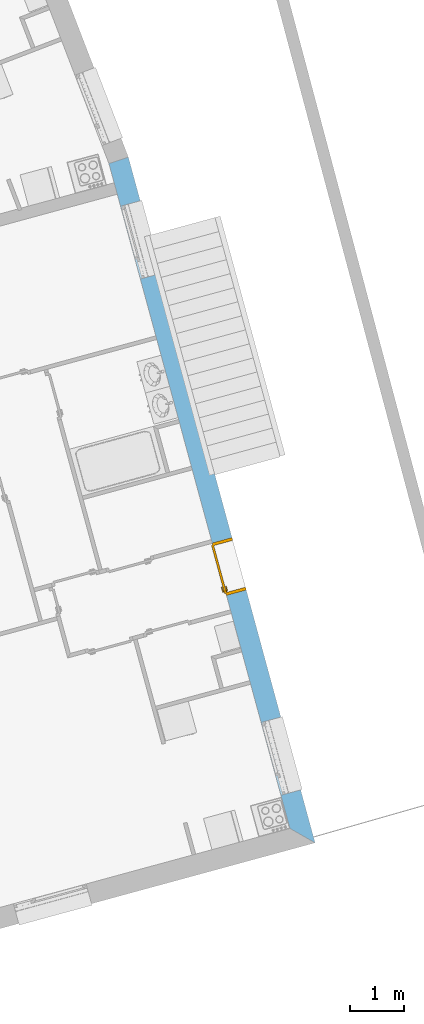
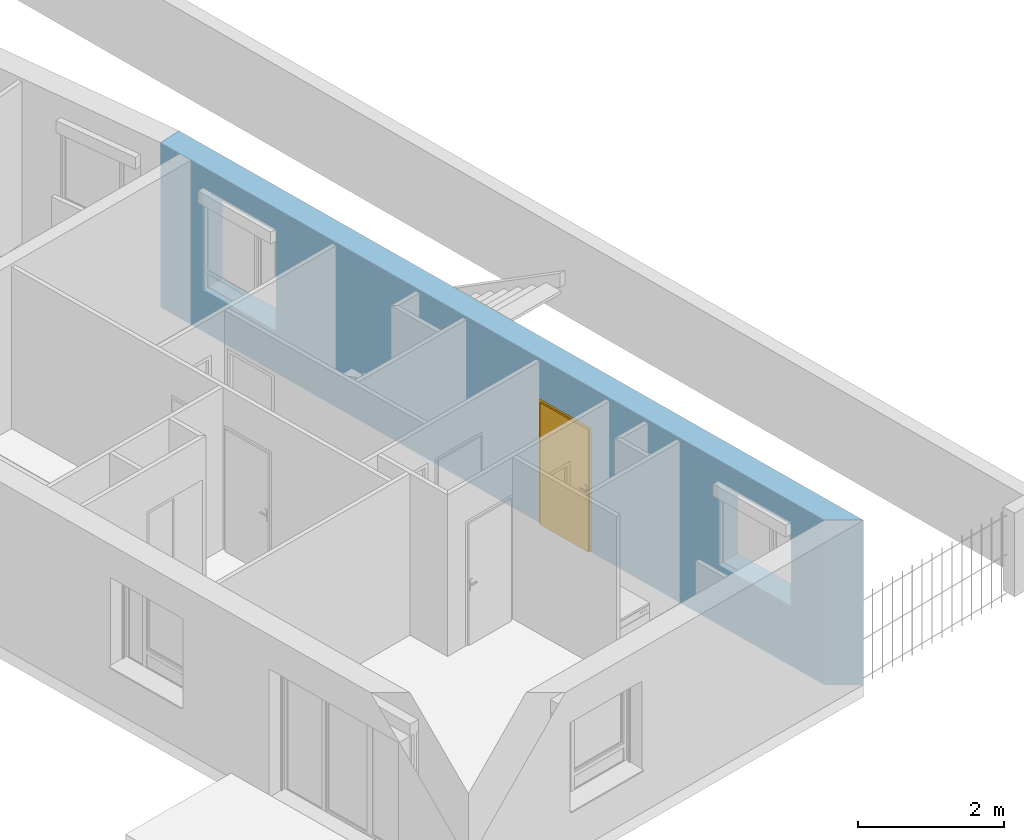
# One storey, part 83 of 195: 1 door, 3 openings, plus 1 element that does not belong to this part.
"""IFC2X3 building model written with IfcOpenShell, lengths in metres."""

from ifc_helpers import new_model, entity, si_unit, converted_unit, derived_unit, money_unit, direction, frame, origin_with_axes, origin_2d_with_axis, place, context, subcontext, project, spatial, polyline, rectangle, outline, extrude, faceted_brep, source, transform, mapped, material, layer, layer_set, layer_usage, type_object, element, fill, save


model = new_model("IFC2X3")

# Units and contexts
model_context = context("Model", 3, precision=1e-05, world=origin_with_axes(), true_north=direction((0.0, 1.0)))
body_context = subcontext(model_context, "Body", "Model", "MODEL_VIEW")
ifc_project = project(units=[si_unit("LENGTHUNIT", "METRE"), si_unit("AREAUNIT", "SQUARE_METRE"), si_unit("VOLUMEUNIT", "CUBIC_METRE"), converted_unit("PLANEANGLEUNIT", "DEGREE", entity("IfcPlaneAngleMeasure", 0.0174532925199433), si_unit("PLANEANGLEUNIT", "RADIAN"), dimensions=[0, 0, 0, 0, 0, 0, 0]), money_unit("CHF"), converted_unit("TIMEUNIT", "Year", entity("IfcTimeMeasure", 31557600.0), si_unit("TIMEUNIT", "SECOND"), dimensions=[0, 0, 1, 0, 0, 0, 0]), si_unit("MASSUNIT", "GRAM", prefix="KILO"), si_unit("THERMODYNAMICTEMPERATUREUNIT", "DEGREE_CELSIUS"), si_unit("LUMINOUSINTENSITYUNIT", "LUMEN"), si_unit("ENERGYUNIT", "JOULE", prefix="MEGA"), derived_unit("THERMALCONDUCTANCEUNIT", [(si_unit("POWERUNIT", "WATT"), 1), (si_unit("LENGTHUNIT", "METRE"), -1), (si_unit("THERMODYNAMICTEMPERATUREUNIT", "KELVIN"), -1)]), derived_unit("SPECIFICHEATCAPACITYUNIT", [(si_unit("ENERGYUNIT", "JOULE"), 1), (si_unit("MASSUNIT", "GRAM", prefix="KILO"), -1), (si_unit("THERMODYNAMICTEMPERATUREUNIT", "KELVIN"), -1)]), derived_unit("MASSDENSITYUNIT", [(si_unit("MASSUNIT", "GRAM", prefix="KILO"), 1), (si_unit("VOLUMEUNIT", "CUBIC_METRE"), -1)])], contexts=[model_context])

# Site, building, storey
site_placement = place(None, origin_with_axes())
site = spatial("IfcSite", under=ifc_project, at=site_placement, Name="Site", CompositionType="ELEMENT")
building_placement = place(site_placement, origin_with_axes())
building = spatial("IfcBuilding", under=site, at=building_placement, Name="Bâtiment", CompositionType="ELEMENT")
storey_placement = place(building_placement, origin_with_axes())
storey = spatial("IfcBuildingStorey", under=building, at=storey_placement, Name="rdc", CompositionType="ELEMENT", Elevation=0.0)

# Wall, openings, door
ifc_material_1 = material(Name="Parpaing 312445824")
ifc_layer_1 = layer(ifc_material_1, 0.22, ventilated="UNKNOWN")
ifc_material_2 = material(Name="Isolant styromousse 301821074")
ifc_layer_2 = layer(ifc_material_2, 0.16, ventilated="UNKNOWN")
ifc_layer_set = layer_set([ifc_layer_1, ifc_layer_2], Name="isol int 22+16 0836643197")
ifc_layer_usage = layer_usage(ifc_layer_set, "AXIS2", "NEGATIVE", 0.0)
wall_type = type_object("IfcWallType", Name="isol int 22+16 0836643197 380", PredefinedType="NOTDEFINED")
wall_placement = place(storey_placement, frame((9593.67620369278, -1044.690928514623, 57.7), z_axis=(0.0, 0.0, 1.0), x_axis=(0.2627340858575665, -0.9648682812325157, 0.0)))
wall = element("IfcWallStandardCase", 1, at=wall_placement, inside=storey, type_object=wall_type, material=ifc_layer_usage, Name="Mur-113", context=body_context, shape_type="SweptSolid", body=[
    extrude(outline(polyline([(0.01930253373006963, -0.3799999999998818), (12.8068754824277, -0.3799999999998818), (13.18687548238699, 0.0), (0.0, 0.0), (0.01930253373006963, -0.3799999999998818)])), origin_with_axes(), (0.0, 0.0, 1.0), 2.75),
])
opening_1_placement = place(wall_placement, frame((1.540061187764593, 0.0, 0.7000000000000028), z_axis=(0.0, 0.0, 1.0), x_axis=(1.0, 0.0, 0.0)))
element("IfcOpeningElement", 2, at=opening_1_placement, cuts=wall, Name="Fen-045", context=body_context, shape_type="Brep", body=[
    faceted_brep([(-0.7000000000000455, -0.220000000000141, 1.5), (0.6999999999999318, -0.2200000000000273, 1.5), (0.6999999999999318, 3.343922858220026, 1.5), (-0.7000000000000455, 3.343922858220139, 1.5), (-0.7000000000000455, -0.220000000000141, 1.700000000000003), (0.6999999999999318, -0.2200000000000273, 1.700000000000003), (0.6999999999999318, -0.2999999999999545, 1.5), (0.6999999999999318, -0.2999999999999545, 0.0), (0.6999999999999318, 3.343922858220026, 0.0), (-0.7000000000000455, 3.343922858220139, 0.0), (-0.7000000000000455, -0.3000000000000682, 1.5), (-0.7000000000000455, -0.3000000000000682, 0.0), (-0.7000000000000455, -0.4799999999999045, 1.5), (-0.7000000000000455, -0.4799999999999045, 1.700000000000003), (0.6999999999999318, -0.4800000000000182, 1.700000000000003), (0.6999999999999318, -0.4800000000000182, 1.5), (0.6999999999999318, -3.72392285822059, 1.5), (0.6999999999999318, -3.72392285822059, 0.0), (-0.7000000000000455, -3.723922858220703, 0.0), (-0.7000000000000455, -3.723922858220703, 1.5)], [[[0, 1, 2, 3]], [[1, 0, 4, 5]], [[1, 6, 7, 8, 2]], [[2, 8, 9, 3]], [[10, 0, 3, 9, 11]], [[0, 10, 12, 13, 4]], [[14, 5, 4, 13]], [[6, 1, 5, 14, 15]], [[6, 15, 16, 17, 7]], [[7, 11, 9, 8]], [[12, 10, 11, 18, 19]], [[12, 15, 14, 13]], [[15, 12, 19, 16]], [[19, 18, 17, 16]], [[11, 7, 17, 18]]]),
])
opening_2_placement = place(wall_placement, frame((11.46788983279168, 0.0, 1.0), z_axis=(0.0, 0.0, 1.0), x_axis=(1.0, 0.0, 0.0)))
element("IfcOpeningElement", 3, at=opening_2_placement, cuts=wall, Name="Fen-045", context=body_context, shape_type="Brep", body=[
    faceted_brep([(-0.6999999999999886, -0.220000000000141, 1.200000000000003), (0.6999999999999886, -0.220000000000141, 1.200000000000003), (0.6999999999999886, 3.343922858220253, 1.200000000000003), (-0.7000000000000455, 3.343922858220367, 1.200000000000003), (-0.6999999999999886, -0.220000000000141, 1.399999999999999), (0.6999999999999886, -0.220000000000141, 1.399999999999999), (0.6999999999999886, -0.3000000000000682, 1.200000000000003), (0.6999999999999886, -0.3000000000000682, 0.0), (0.6999999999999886, 3.343922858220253, 0.0), (-0.7000000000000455, 3.343922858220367, 0.0), (-0.6999999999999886, -0.3000000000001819, 1.200000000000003), (-0.6999999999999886, -0.3000000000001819, 0.0), (-0.6999999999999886, -0.4800000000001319, 1.200000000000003), (-0.6999999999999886, -0.4800000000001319, 1.399999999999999), (0.6999999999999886, -0.4800000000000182, 1.399999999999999), (0.6999999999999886, -0.4800000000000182, 1.200000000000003), (0.7000000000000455, -3.723922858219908, 1.200000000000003), (0.7000000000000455, -3.723922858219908, 0.0), (-0.6999999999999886, -3.723922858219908, 0.0), (-0.6999999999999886, -3.723922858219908, 1.200000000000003)], [[[0, 1, 2, 3]], [[1, 0, 4, 5]], [[1, 6, 7, 8, 2]], [[2, 8, 9, 3]], [[10, 0, 3, 9, 11]], [[0, 10, 12, 13, 4]], [[14, 5, 4, 13]], [[6, 1, 5, 14, 15]], [[6, 15, 16, 17, 7]], [[7, 11, 9, 8]], [[12, 10, 11, 18, 19]], [[12, 15, 14, 13]], [[15, 12, 19, 16]], [[19, 18, 17, 16]], [[11, 7, 17, 18]]]),
])
opening_3_placement = place(wall_placement, frame((7.820826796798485, 0.0, 0.0), z_axis=(0.0, 0.0, 1.0), x_axis=(1.0, 0.0, 0.0)))
opening_3 = element("IfcOpeningElement", 4, at=opening_3_placement, cuts=wall, Name="Por-290", context=body_context, shape_type="SweptSolid", body=[
    extrude(rectangle(XDim=1.01000001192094, YDim=2.079999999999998, at=origin_2d_with_axis()), frame((-5.960487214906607e-09, 0.3799999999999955, 1.039999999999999), z_axis=(0.0, -1.0, 0.0), x_axis=(-1.0, 0.0, 0.0)), (0.0, 0.0, 1.0), 0.76),
])
door_style = type_object("IfcDoorStyle", Name="Porte_1v", ConstructionType="NOTDEFINED", OperationType="NOTDEFINED", ParameterTakesPrecedence=False, Sizeable=False)
shared_shape = source(origin_with_axes(), body_context, "Body", "Brep", [
    faceted_brep([(0.5049999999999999, 0.0, 0.0), (0.465, 0.0, 0.0), (0.4649999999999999, 0.0, 2.04), (-0.4649999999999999, 0.0, 2.04), (-0.465, 0.0, 0.0), (-0.5049999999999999, 0.0, 0.0), (-0.5049999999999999, 0.0, 2.08), (0.5049999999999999, 0.0, 2.08), (0.5049999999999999, -0.38, 0.0), (0.45, -0.3799999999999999, 0.0), (0.45, -0.01500000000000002, 0.0), (0.465, -0.01500000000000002, 0.0), (0.4649999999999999, -0.01500000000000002, 2.04), (-0.4649999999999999, -0.01499999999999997, 2.04), (-0.465, -0.01499999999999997, 0.0), (-0.45, -0.01499999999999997, 0.0), (-0.45, -0.3799999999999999, 0.0), (-0.5049999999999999, -0.3799999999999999, 0.0), (-0.5049999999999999, -0.3799999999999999, 2.08), (0.5049999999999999, -0.38, 2.08), (-0.45, -0.3799999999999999, 2.025), (0.45, -0.3799999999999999, 2.025), (0.45, -0.01500000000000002, 2.025), (-0.45, -0.01499999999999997, 2.025)], [[[0, 1, 2, 3, 4, 5, 6, 7]], [[0, 8, 9, 10, 11, 1]], [[1, 11, 12, 2]], [[2, 12, 13, 3]], [[3, 13, 14, 4]], [[5, 4, 14, 15, 16, 17]], [[18, 6, 5, 17]], [[19, 7, 6, 18]], [[8, 0, 7, 19]], [[9, 8, 19, 18, 17, 16, 20, 21]], [[10, 9, 21, 22]], [[11, 10, 22, 23, 15, 14, 13, 12]], [[23, 20, 16, 15]], [[22, 21, 20, 23]]]),
    faceted_brep([(-0.4, -0.01499999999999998, 0.9), (-0.4399999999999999, -0.01499999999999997, 0.9), (-0.4399999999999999, -0.01499999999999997, 1.1), (-0.4, -0.01499999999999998, 1.1), (-0.4, -0.02499999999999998, 0.9), (-0.4399999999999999, -0.02499999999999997, 0.9), (-0.4399999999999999, -0.02499999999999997, 1.1), (-0.4, -0.02499999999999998, 1.1)], [[[0, 1, 2, 3]], [[1, 0, 4, 5]], [[2, 1, 5, 6]], [[3, 2, 6, 7]], [[0, 3, 7, 4]], [[5, 4, 7, 6]]]),
    faceted_brep([(-0.3299999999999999, -0.02499999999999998, 1.0), (-0.4299999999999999, -0.02499999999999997, 1.0), (-0.4299999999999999, -0.02499999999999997, 1.02), (-0.3299999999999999, -0.02499999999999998, 1.02), (-0.3299999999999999, -0.04499999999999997, 1.0), (-0.4299999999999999, -0.04499999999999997, 1.0), (-0.4299999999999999, -0.04499999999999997, 1.02), (-0.3299999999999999, -0.04499999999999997, 1.02)], [[[0, 1, 2, 3]], [[1, 0, 4, 5]], [[2, 1, 5, 6]], [[3, 2, 6, 7]], [[0, 3, 7, 4]], [[5, 4, 7, 6]]]),
    faceted_brep([(-0.4, 0.03500000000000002, 0.9), (-0.4399999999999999, 0.03500000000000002, 0.9), (-0.4399999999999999, 0.03500000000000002, 1.1), (-0.4, 0.03500000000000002, 1.1), (-0.4, 0.02500000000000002, 0.9), (-0.4399999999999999, 0.02500000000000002, 0.9), (-0.4399999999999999, 0.02500000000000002, 1.1), (-0.4, 0.02500000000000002, 1.1)], [[[0, 1, 2, 3]], [[1, 0, 4, 5]], [[2, 1, 5, 6]], [[3, 2, 6, 7]], [[0, 3, 7, 4]], [[5, 4, 7, 6]]]),
    faceted_brep([(-0.3299999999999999, 0.05500000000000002, 1.0), (-0.4299999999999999, 0.05500000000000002, 1.0), (-0.4299999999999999, 0.05500000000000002, 1.02), (-0.3299999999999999, 0.05500000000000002, 1.02), (-0.3299999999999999, 0.03500000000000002, 1.0), (-0.4299999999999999, 0.03500000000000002, 1.0), (-0.4299999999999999, 0.03500000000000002, 1.02), (-0.3299999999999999, 0.03500000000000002, 1.02)], [[[0, 1, 2, 3]], [[1, 0, 4, 5]], [[2, 1, 5, 6]], [[3, 2, 6, 7]], [[0, 3, 7, 4]], [[5, 4, 7, 6]]]),
    faceted_brep([(-0.465, 0.02500000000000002, 0.0), (0.465, 0.02499999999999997, 0.0), (0.465, -0.01500000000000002, 0.0), (-0.465, -0.01499999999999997, 0.0), (-0.465, 0.02500000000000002, 2.04), (0.465, 0.02499999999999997, 2.04), (0.465, -0.01500000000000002, 2.04), (-0.465, -0.01499999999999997, 2.04)], [[[0, 1, 2, 3]], [[0, 4, 5, 1]], [[1, 5, 6, 2]], [[3, 2, 6, 7]], [[4, 0, 3, 7]], [[5, 4, 7, 6]]]),
])
door_placement = place(opening_3_placement, frame((0.4650000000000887, 0.0, 0.0), z_axis=(0.0, 0.0, 1.0), x_axis=(-1.0, 0.0, 0.0)))
door = element("IfcDoor", 5, at=door_placement, inside=storey, type_object=door_style, Name="Por-290", OverallHeight=2.04, OverallWidth=0.93, context=body_context, shape_type="MappedRepresentation", body=[
    mapped(shared_shape, transform((0.464999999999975, 0.3799999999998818, 0.0))),
])
fill(opening_3, door)

save(model, "model.ifc")
